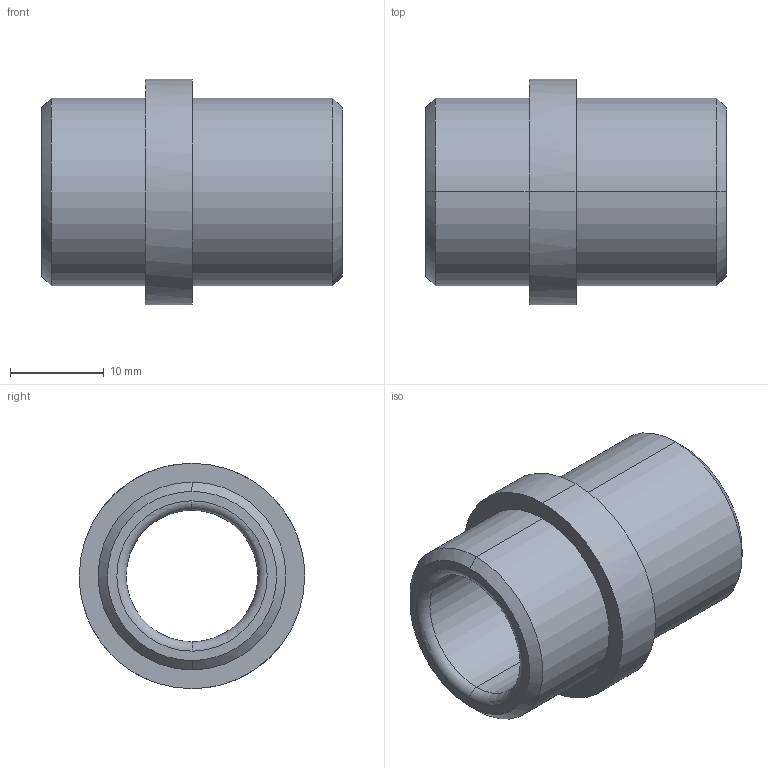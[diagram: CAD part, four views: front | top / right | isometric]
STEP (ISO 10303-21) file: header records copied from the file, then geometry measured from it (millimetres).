
FILE_DESCRIPTION(('CATIA V5 STEP Exchange'),'2;1');
FILE_NAME('C:\Users\Utente\Desktop\IO LAVORO\3D X SITO CF\X SITO\PLASTICA\354\354-14X32.stp','2021-04-21T08:49:21+00:00',('none'),('none'),'CATIA Version 5 Release 20 GA (IN-10)','CATIA V5 STEP AP203','none');
FILE_SCHEMA(('CONFIG_CONTROL_DESIGN'));
Length unit declared in the file: millimetre
Products named in the file (1): 354-14X32
Bounding box: 32 x 24 x 24 mm (x, y, z)
Volume: 5738 mm3; surface area: 3964.7 mm2
Topology: 1 solids, 1 shells, 20 faces, 64 edges, 48 vertices
Faces by surface type: cylinder 8, plane 4, cone 4, torus 4
Entity records: 906 total; most frequent: CARTESIAN_POINT 301, ORIENTED_EDGE 128, DIRECTION 92, EDGE_CURVE 64, AXIS2_PLACEMENT_3D 61, VERTEX_POINT 48, CIRCLE 40, EDGE_LOOP 24
